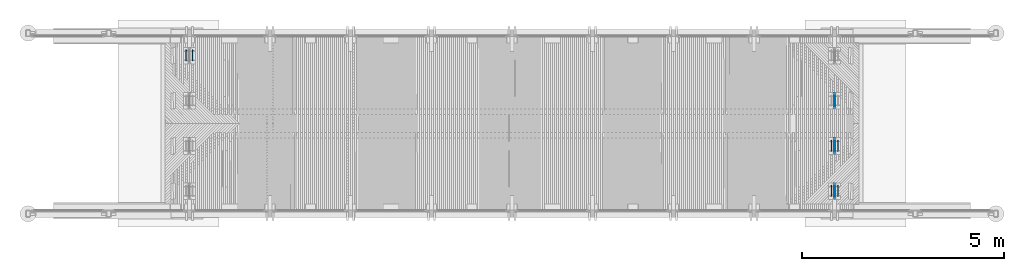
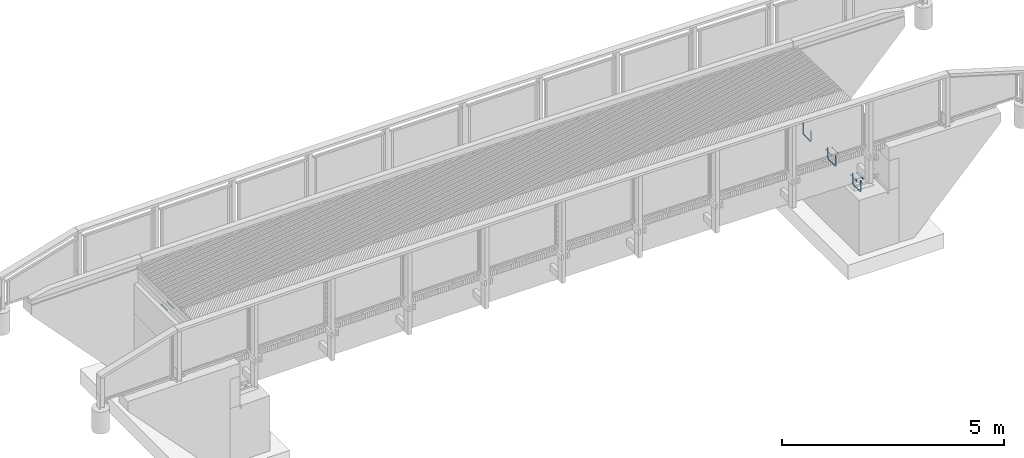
# One storey, part 3 of 65: 6 reinforcing bars, 3 mechanical fasteners.
"""IFC2X3 building model written with IfcOpenShell, lengths in millimetres."""

from ifc_helpers import new_model, si_unit, frame, origin_with_axes, place, context, subcontext, project, spatial, faceted_brep, source, transform, mapped, material, type_object, element, save


model = new_model("IFC2X3")

# Units and contexts
model_context = context("Model", 3, precision=1e-05, world=origin_with_axes())
body_context = subcontext(model_context, "Body", "Model", "MODEL_VIEW")
ifc_project = project(units=[si_unit("LENGTHUNIT", "METRE", prefix="MILLI"), si_unit("AREAUNIT", "SQUARE_METRE"), si_unit("VOLUMEUNIT", "CUBIC_METRE"), si_unit("MASSUNIT", "GRAM", prefix="KILO"), si_unit("TIMEUNIT", "SECOND"), si_unit("PLANEANGLEUNIT", "RADIAN"), si_unit("SOLIDANGLEUNIT", "STERADIAN"), si_unit("THERMODYNAMICTEMPERATUREUNIT", "DEGREE_CELSIUS"), si_unit("LUMINOUSINTENSITYUNIT", "LUMEN")], contexts=[model_context])

# Site, building, storey
site_placement = place(None, origin_with_axes())
site = spatial("IfcSite", under=ifc_project, at=site_placement, Name="Undefined", CompositionType="ELEMENT")
building_placement = place(site_placement, origin_with_axes())
building = spatial("IfcBuilding", under=site, at=building_placement, Name="Undefined", CompositionType="ELEMENT")
storey_placement = place(building_placement, origin_with_axes())
storey = spatial("IfcBuildingStorey", under=building, at=storey_placement, Name="Undefined", CompositionType="ELEMENT", Elevation=0.0)

# Reinforcing bars
ifc_material_1 = material(Name="A500HW")
shared_shape_1 = source(origin_with_axes(), body_context, "Body", "Brep", [
    faceted_brep([(9.95929214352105, -5.74999999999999, -1.31778448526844e-16), (9.95929214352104, 5.75000000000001, -1.31778448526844e-16), (-4.46864767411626e-15, 11.5, 5.31556664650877e-32), (-9.95929214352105, 5.75, 1.31778448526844e-16), (-9.95929214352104, -5.75, 1.31778448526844e-16), (0.0, -11.5, 0.0), (-9.95929214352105, -5.75, -268.5), (-3.5527136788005e-15, -11.5, -268.5), (-9.95929214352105, 5.75, -268.5), (-8.02136135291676e-15, 11.5, -268.5), (9.95929214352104, 5.75000000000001, -268.5), (9.95929214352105, -5.74999999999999, -268.5), (-4.40480021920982, -5.75, -289.229646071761), (4.22019978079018, -11.5, -284.25), (-4.40480021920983, 5.75, -289.229646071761), (4.22019978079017, 11.5, -284.25), (12.8451997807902, 5.75000000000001, -279.27035392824), (12.8451997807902, -5.74999999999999, -279.27035392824), (10.7703539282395, -5.75, -304.40480021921), (15.75, -11.5, -295.77980021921), (10.7703539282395, 5.75, -304.40480021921), (15.75, 11.5, -295.77980021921), (20.7296460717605, 5.75000000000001, -287.15480021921), (20.7296460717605, -5.74999999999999, -287.15480021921), (31.5, -5.75, -309.959292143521), (31.5, -11.5, -300.0), (31.5, 5.75, -309.959292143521), (31.5, 11.5, -300.0), (31.5, 5.75000000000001, -290.040707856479), (31.5, -5.74999999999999, -290.040707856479), (323.5, -5.75, -309.959292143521), (323.5, -11.5, -300.0), (323.5, 5.75, -309.959292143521), (323.5, 11.5, -300.0), (323.5, 5.75000000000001, -290.040707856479), (323.5, -5.74999999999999, -290.040707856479), (344.229646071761, -5.75, -304.40480021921), (339.25, -11.5, -295.77980021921), (344.229646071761, 5.75, -304.40480021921), (339.25, 11.5, -295.77980021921), (334.270353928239, 5.75000000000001, -287.15480021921), (334.270353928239, -5.74999999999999, -287.15480021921), (359.40480021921, -5.75, -289.229646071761), (350.77980021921, -11.5, -284.25), (359.40480021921, 5.75, -289.229646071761), (350.77980021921, 11.5, -284.25), (342.15480021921, 5.75000000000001, -279.27035392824), (342.15480021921, -5.74999999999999, -279.27035392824), (364.959292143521, -5.75, -268.5), (355.0, -11.5, -268.5), (364.959292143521, 5.75, -268.5), (355.0, 11.5, -268.5), (345.040707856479, 5.75000000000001, -268.5), (345.040707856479, -5.74999999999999, -268.5), (364.959292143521, -5.75, 0.0), (355.0, -11.5, 0.0), (364.959292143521, 5.75, 0.0), (355.0, 11.5, 0.0), (345.040707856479, 5.75000000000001, 0.0), (345.040707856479, -5.74999999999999, 0.0)], [[[0, 1, 2, 3, 4, 5]], [[5, 4, 6, 7]], [[4, 3, 8, 6]], [[3, 2, 9, 8]], [[2, 1, 10, 9]], [[1, 0, 11, 10]], [[0, 5, 7, 11]], [[7, 6, 12, 13]], [[6, 8, 14, 12]], [[8, 9, 15, 14]], [[9, 10, 16, 15]], [[10, 11, 17, 16]], [[11, 7, 13, 17]], [[13, 12, 18, 19]], [[12, 14, 20, 18]], [[14, 15, 21, 20]], [[15, 16, 22, 21]], [[16, 17, 23, 22]], [[17, 13, 19, 23]], [[19, 18, 24, 25]], [[18, 20, 26, 24]], [[20, 21, 27, 26]], [[21, 22, 28, 27]], [[22, 23, 29, 28]], [[23, 19, 25, 29]], [[25, 24, 30, 31]], [[24, 26, 32, 30]], [[26, 27, 33, 32]], [[27, 28, 34, 33]], [[28, 29, 35, 34]], [[29, 25, 31, 35]], [[31, 30, 36, 37]], [[30, 32, 38, 36]], [[32, 33, 39, 38]], [[33, 34, 40, 39]], [[34, 35, 41, 40]], [[35, 31, 37, 41]], [[37, 36, 42, 43]], [[36, 38, 44, 42]], [[38, 39, 45, 44]], [[39, 40, 46, 45]], [[40, 41, 47, 46]], [[41, 37, 43, 47]], [[43, 42, 48, 49]], [[42, 44, 50, 48]], [[44, 45, 51, 50]], [[45, 46, 52, 51]], [[46, 47, 53, 52]], [[47, 43, 49, 53]], [[49, 48, 54, 55]], [[48, 50, 56, 54]], [[50, 51, 57, 56]], [[51, 52, 58, 57]], [[52, 53, 59, 58]], [[53, 49, 55, 59]], [[55, 54, 56, 57, 58, 59]]]),
])
for number, where, z_axis, x_axis, name in (
    (1, (16000.0, 23102.5000000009, 1637.32999999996), (0.0, 0.0, 1.0), (0.0, -1.0, 0.0), "REBAR"),
    (2, (16000.0, 21627.5, 1637.32999999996), (0.0, 0.0, 1.0), (0.0, 1.0, 0.0), "REBAR"),
    (3, (16000.0, 20507.5, 1615.32999999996), (0.0, 0.0, 1.0), (0.0, 1.0, 0.0), "REBAR"),
    (4, (16000.0, 20507.5, 1615.32999999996), (0.0, 0.0, 1.0), (0.0, 1.0, 0.0), "REBAR"),
    (5, (16000.0, 21627.5, 1637.32999999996), (0.0, 0.0, 1.0), (0.0, 1.0, 0.0), "REBAR"),
    (6, (16000.0, 23102.5000000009, 1637.32999999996), (0.0, 0.0, 1.0), (0.0, -1.0, 0.0), "REBAR"),
):
    element("IfcReinforcingBar", number, at=place(storey_placement, frame(where, z_axis=z_axis, x_axis=x_axis)), inside=storey, material=ifc_material_1, Name=name, BarRole="NOTDEFINED", CrossSectionArea=0.0, NominalDiameter=23.0, context=body_context, shape_type="MappedRepresentation", body=[
        mapped(shared_shape_1, transform((0.0, 0.0, 420.0))),
    ])

# Mechanical fasteners
ifc_material_2 = material(Name="Undefined")
mechanical_fastener_type = type_object("IfcMechanicalFastenerType", Name="Bolt assembly")
shared_shape_2 = source(origin_with_axes(), body_context, "Body", "Brep", [
    faceted_brep([(17.3205080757, -238.7, 0.0), (8.66025403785, -238.7, 15.0000000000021), (-8.66025403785, -238.7, 15.0000000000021), (-17.3205080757, -238.7, 0.0), (-8.66025403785, -238.7, -15.0000000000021), (8.66025403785, -238.7, -15.0000000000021), (8.66025403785, -225.5, -15.0000000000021), (-8.66025403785, -225.5, -15.0000000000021), (-17.3205080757, -225.5, 0.0), (-8.66025403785, -225.5, 15.0000000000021), (8.66025403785, -225.5, 15.0000000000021), (17.3205080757, -225.5, 0.0), (10.0, -225.5, 0.0), (8.66025403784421, -225.5, 5.0000000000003), (4.9999999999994, -225.5, 8.66025403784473), (-1.03633598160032e-12, -225.5, 10.0), (-5.00000000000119, -225.5, 8.6602540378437), (-8.66025403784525, -225.5, 4.99999999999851), (-10.0, -225.5, -2.07267196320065e-12), (-8.66025403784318, -225.5, -5.00000000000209), (-4.99999999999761, -225.5, -8.66025403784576), (3.09790571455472e-12, -225.5, -10.0), (5.00000000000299, -225.5, -8.66025403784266), (8.66025403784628, -225.5, -4.99999999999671), (8.66025403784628, 44.5, -4.99999999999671), (5.00000000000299, 44.5, -8.66025403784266), (3.09790571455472e-12, 44.5, -10.0), (-4.99999999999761, 44.5, -8.66025403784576), (-8.66025403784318, 44.5, -5.00000000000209), (-10.0, 44.5, -2.07267196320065e-12), (-8.66025403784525, 44.5, 4.99999999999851), (-5.00000000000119, 44.5, 8.6602540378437), (-1.03633598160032e-12, 44.5, 10.0), (4.9999999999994, 44.5, 8.66025403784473), (8.66025403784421, 44.5, 5.0000000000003), (10.0, 44.5, 0.0), (18.5, -225.5, 0.0), (16.0214699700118, -225.5, 9.25000000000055), (9.2499999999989, -225.5, 16.0214699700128), (-1.9172215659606e-12, -225.5, 18.5), (-9.25000000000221, -225.5, 16.0214699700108), (-16.0214699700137, -225.5, 9.24999999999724), (-18.5, -225.5, -3.83444313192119e-12), (-16.0214699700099, -225.5, -9.25000000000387), (-9.24999999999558, -225.5, -16.0214699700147), (5.73112557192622e-12, -225.5, -18.5), (9.25000000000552, -225.5, -16.0214699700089), (16.0214699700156, -225.5, -9.24999999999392), (16.0214699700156, -222.5, -9.24999999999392), (9.25000000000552, -222.5, -16.0214699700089), (5.73112557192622e-12, -222.5, -18.5), (-9.24999999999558, -222.5, -16.0214699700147), (-16.0214699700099, -222.5, -9.25000000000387), (-18.5, -222.5, -3.83444313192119e-12), (-16.0214699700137, -222.5, 9.24999999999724), (-9.25000000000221, -222.5, 16.0214699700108), (-1.9172215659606e-12, -222.5, 18.5), (9.2499999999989, -222.5, 16.0214699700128), (16.0214699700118, -222.5, 9.25000000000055), (18.5, -222.5, 0.0), (18.5, 12.5, 0.0), (16.0214699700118, 12.5, 9.25000000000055), (9.2499999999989, 12.5, 16.0214699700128), (-1.9172215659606e-12, 12.5, 18.5), (-9.25000000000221, 12.5, 16.0214699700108), (-16.0214699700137, 12.5, 9.24999999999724), (-18.5, 12.5, -3.83444313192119e-12), (-16.0214699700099, 12.5, -9.25000000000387), (-9.24999999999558, 12.5, -16.0214699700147), (5.73112557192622e-12, 12.5, -18.5), (9.25000000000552, 12.5, -16.0214699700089), (16.0214699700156, 12.5, -9.24999999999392), (16.0214699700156, 15.5, -9.24999999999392), (9.25000000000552, 15.5, -16.0214699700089), (5.73112557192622e-12, 15.5, -18.5), (-9.24999999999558, 15.5, -16.0214699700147), (-16.0214699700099, 15.5, -9.25000000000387), (-18.5, 15.5, -3.83444313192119e-12), (-16.0214699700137, 15.5, 9.24999999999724), (-9.25000000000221, 15.5, 16.0214699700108), (-1.9172215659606e-12, 15.5, 18.5), (9.2499999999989, 15.5, 16.0214699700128), (16.0214699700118, 15.5, 9.25000000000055), (18.5, 15.5, 0.0), (17.3205080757, 15.5, 0.0), (8.66025403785, 15.5, 15.0000000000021), (-8.66025403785, 15.5, 15.0000000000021), (-17.3205080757, 15.5, 0.0), (-8.66025403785, 15.5, -15.0000000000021), (8.66025403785, 15.5, -15.0000000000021), (8.66025403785, 31.5, -15.0000000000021), (-8.66025403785, 31.5, -15.0000000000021), (-17.3205080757, 31.5, 0.0), (-8.66025403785, 31.5, 15.0000000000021), (8.66025403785, 31.5, 15.0000000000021), (17.3205080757, 31.5, 0.0)], [[[0, 1, 2, 3, 4, 5]], [[6, 7, 8, 9, 10, 11]], [[0, 11, 10, 1]], [[1, 10, 9, 2]], [[2, 9, 8, 3]], [[3, 8, 7, 4]], [[4, 7, 6, 5]], [[5, 6, 11, 0]], [[12, 13, 14, 15, 16, 17, 18, 19, 20, 21, 22, 23]], [[24, 25, 26, 27, 28, 29, 30, 31, 32, 33, 34, 35]], [[12, 35, 34, 13]], [[13, 34, 33, 14]], [[14, 33, 32, 15]], [[15, 32, 31, 16]], [[16, 31, 30, 17]], [[17, 30, 29, 18]], [[18, 29, 28, 19]], [[19, 28, 27, 20]], [[20, 27, 26, 21]], [[21, 26, 25, 22]], [[22, 25, 24, 23]], [[23, 24, 35, 12]], [[36, 37, 38, 39, 40, 41, 42, 43, 44, 45, 46, 47]], [[48, 49, 50, 51, 52, 53, 54, 55, 56, 57, 58, 59]], [[36, 59, 58, 37]], [[37, 58, 57, 38]], [[38, 57, 56, 39]], [[39, 56, 55, 40]], [[40, 55, 54, 41]], [[41, 54, 53, 42]], [[42, 53, 52, 43]], [[43, 52, 51, 44]], [[44, 51, 50, 45]], [[45, 50, 49, 46]], [[46, 49, 48, 47]], [[47, 48, 59, 36]], [[60, 61, 62, 63, 64, 65, 66, 67, 68, 69, 70, 71]], [[72, 73, 74, 75, 76, 77, 78, 79, 80, 81, 82, 83]], [[60, 83, 82, 61]], [[61, 82, 81, 62]], [[62, 81, 80, 63]], [[63, 80, 79, 64]], [[64, 79, 78, 65]], [[65, 78, 77, 66]], [[66, 77, 76, 67]], [[67, 76, 75, 68]], [[68, 75, 74, 69]], [[69, 74, 73, 70]], [[70, 73, 72, 71]], [[71, 72, 83, 60]], [[84, 85, 86, 87, 88, 89]], [[90, 91, 92, 93, 94, 95]], [[84, 95, 94, 85]], [[85, 94, 93, 86]], [[86, 93, 92, 87]], [[87, 92, 91, 88]], [[88, 91, 90, 89]], [[89, 90, 95, 84]]]),
    faceted_brep([(11.0, 2.4, 0.0), (9.52627944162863, 2.4, 5.50000000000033), (5.49999999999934, 2.4, 9.5262794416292), (-1.13996957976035e-12, 2.4, 11.0), (-5.50000000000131, 2.4, 9.52627944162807), (-9.52627944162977, 2.4, 5.49999999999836), (-11.0, 2.4, -2.27993915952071e-12), (-9.5262794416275, 2.4, -5.5000000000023), (-5.49999999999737, 2.4, -9.52627944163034), (3.40769628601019e-12, 2.4, -11.0), (5.50000000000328, 2.4, -9.52627944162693), (9.52627944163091, 2.4, -5.49999999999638), (9.52627944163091, 12.5, -5.49999999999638), (5.50000000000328, 12.5, -9.52627944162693), (3.40769628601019e-12, 12.5, -11.0), (-5.49999999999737, 12.5, -9.52627944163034), (-9.5262794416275, 12.5, -5.5000000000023), (-11.0, 12.5, -2.27993915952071e-12), (-9.52627944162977, 12.5, 5.49999999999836), (-5.50000000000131, 12.5, 9.52627944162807), (-1.13996957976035e-12, 12.5, 11.0), (5.49999999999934, 12.5, 9.5262794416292), (9.52627944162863, 12.5, 5.50000000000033), (11.0, 12.5, 0.0), (11.0, -212.500000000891, 0.0), (9.52627944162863, -212.500000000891, 5.50000000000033), (5.49999999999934, -212.500000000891, 9.5262794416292), (-1.13996957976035e-12, -212.500000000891, 11.0), (-5.50000000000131, -212.500000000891, 9.52627944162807), (-9.52627944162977, -212.500000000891, 5.49999999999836), (-11.0, -212.500000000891, -2.27993915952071e-12), (-9.5262794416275, -212.500000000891, -5.5000000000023), (-5.49999999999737, -212.500000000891, -9.52627944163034), (3.40769628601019e-12, -212.500000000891, -11.0), (5.50000000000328, -212.500000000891, -9.52627944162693), (9.52627944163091, -212.500000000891, -5.49999999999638), (9.52627944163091, 2.4999999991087, -5.49999999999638), (5.50000000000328, 2.4999999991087, -9.52627944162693), (3.40769628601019e-12, 2.4999999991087, -11.0), (-5.49999999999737, 2.4999999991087, -9.52627944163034), (-9.5262794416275, 2.4999999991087, -5.5000000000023), (-11.0, 2.4999999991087, -2.27993915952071e-12), (-9.52627944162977, 2.4999999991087, 5.49999999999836), (-5.50000000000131, 2.4999999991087, 9.52627944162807), (-1.13996957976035e-12, 2.4999999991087, 11.0), (5.49999999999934, 2.4999999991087, 9.5262794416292), (9.52627944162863, 2.4999999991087, 5.50000000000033), (11.0, 2.4999999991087, 0.0), (11.0, -222.4, 0.0), (9.52627944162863, -222.4, 5.50000000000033), (5.49999999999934, -222.4, 9.5262794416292), (-1.13996957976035e-12, -222.4, 11.0), (-5.50000000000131, -222.4, 9.52627944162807), (-9.52627944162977, -222.4, 5.49999999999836), (-11.0, -222.4, -2.27993915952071e-12), (-9.5262794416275, -222.4, -5.5000000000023), (-5.49999999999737, -222.4, -9.52627944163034), (3.40769628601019e-12, -222.4, -11.0), (5.50000000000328, -222.4, -9.52627944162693), (9.52627944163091, -222.4, -5.49999999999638), (9.52627944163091, -212.4, -5.49999999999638), (5.50000000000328, -212.4, -9.52627944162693), (3.40769628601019e-12, -212.4, -11.0), (-5.49999999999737, -212.4, -9.52627944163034), (-9.5262794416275, -212.4, -5.5000000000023), (-11.0, -212.4, -2.27993915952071e-12), (-9.52627944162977, -212.4, 5.49999999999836), (-5.50000000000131, -212.4, 9.52627944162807), (-1.13996957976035e-12, -212.4, 11.0), (5.49999999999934, -212.4, 9.5262794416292), (9.52627944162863, -212.4, 5.50000000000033), (11.0, -212.4, 0.0)], [[[0, 1, 2, 3, 4, 5, 6, 7, 8, 9, 10, 11]], [[12, 13, 14, 15, 16, 17, 18, 19, 20, 21, 22, 23]], [[0, 23, 22, 1]], [[1, 22, 21, 2]], [[2, 21, 20, 3]], [[3, 20, 19, 4]], [[4, 19, 18, 5]], [[5, 18, 17, 6]], [[6, 17, 16, 7]], [[7, 16, 15, 8]], [[8, 15, 14, 9]], [[9, 14, 13, 10]], [[10, 13, 12, 11]], [[11, 12, 23, 0]], [[24, 25, 26, 27, 28, 29, 30, 31, 32, 33, 34, 35]], [[36, 37, 38, 39, 40, 41, 42, 43, 44, 45, 46, 47]], [[24, 47, 46, 25]], [[25, 46, 45, 26]], [[26, 45, 44, 27]], [[27, 44, 43, 28]], [[28, 43, 42, 29]], [[29, 42, 41, 30]], [[30, 41, 40, 31]], [[31, 40, 39, 32]], [[32, 39, 38, 33]], [[33, 38, 37, 34]], [[34, 37, 36, 35]], [[35, 36, 47, 24]], [[48, 49, 50, 51, 52, 53, 54, 55, 56, 57, 58, 59]], [[60, 61, 62, 63, 64, 65, 66, 67, 68, 69, 70, 71]], [[48, 71, 70, 49]], [[49, 70, 69, 50]], [[50, 69, 68, 51]], [[51, 68, 67, 52]], [[52, 67, 66, 53]], [[53, 66, 65, 54]], [[54, 65, 64, 55]], [[55, 64, 63, 56]], [[56, 63, 62, 57]], [[57, 62, 61, 58]], [[58, 61, 60, 59]], [[59, 60, 71, 48]]]),
])
mechanical_fastener_placement = place(storey_placement, frame((-80.0, 24150.0000000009, 2045.33), z_axis=(0.0, 0.0, 1.0), x_axis=(1.0, 0.0, 0.0)))
element("IfcMechanicalFastener", 7, at=mechanical_fastener_placement, inside=storey, type_object=mechanical_fastener_type, material=ifc_material_2, Name="Bolt assembly", NominalDiameter=20.0, NominalLength=270.0, context=body_context, shape_type="MappedRepresentation", body=[
    mapped(shared_shape_2, transform((0.0, 0.0, 0.0))),
    mapped(shared_shape_2, transform((160.0, 0.0, 0.0))),
])
shared_shape_3 = source(origin_with_axes(), body_context, "Body", "Brep", [
    faceted_brep([(17.3205080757, -28.7, 0.0), (8.66025403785, -28.7, 15.0000000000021), (-8.66025403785, -28.7, 15.0000000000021), (-17.3205080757, -28.7, 0.0), (-8.66025403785, -28.7, -15.0000000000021), (8.66025403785, -28.7, -15.0000000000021), (8.66025403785, -15.5, -15.0000000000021), (-8.66025403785, -15.5, -15.0000000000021), (-17.3205080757, -15.5, 0.0), (-8.66025403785, -15.5, 15.0000000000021), (8.66025403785, -15.5, 15.0000000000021), (17.3205080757, -15.5, 0.0), (10.0, -15.5, 0.0), (8.66025403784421, -15.5, 5.0000000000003), (4.9999999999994, -15.5, 8.66025403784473), (-1.03633598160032e-12, -15.5, 10.0), (-5.00000000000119, -15.5, 8.6602540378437), (-8.66025403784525, -15.5, 4.99999999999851), (-10.0, -15.5, -2.07267196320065e-12), (-8.66025403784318, -15.5, -5.00000000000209), (-4.99999999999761, -15.5, -8.66025403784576), (3.09790571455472e-12, -15.5, -10.0), (5.00000000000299, -15.5, -8.66025403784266), (8.66025403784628, -15.5, -4.99999999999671), (8.66025403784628, 254.5, -4.99999999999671), (5.00000000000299, 254.5, -8.66025403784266), (3.09790571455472e-12, 254.5, -10.0), (-4.99999999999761, 254.5, -8.66025403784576), (-8.66025403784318, 254.5, -5.00000000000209), (-10.0, 254.5, -2.07267196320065e-12), (-8.66025403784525, 254.5, 4.99999999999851), (-5.00000000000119, 254.5, 8.6602540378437), (-1.03633598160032e-12, 254.5, 10.0), (4.9999999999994, 254.5, 8.66025403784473), (8.66025403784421, 254.5, 5.0000000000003), (10.0, 254.5, 0.0), (18.5, -15.5, 0.0), (16.0214699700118, -15.5, 9.25000000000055), (9.2499999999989, -15.5, 16.0214699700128), (-1.9172215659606e-12, -15.5, 18.5), (-9.25000000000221, -15.5, 16.0214699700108), (-16.0214699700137, -15.5, 9.24999999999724), (-18.5, -15.5, -3.83444313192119e-12), (-16.0214699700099, -15.5, -9.25000000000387), (-9.24999999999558, -15.5, -16.0214699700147), (5.73112557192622e-12, -15.5, -18.5), (9.25000000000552, -15.5, -16.0214699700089), (16.0214699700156, -15.5, -9.24999999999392), (16.0214699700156, -12.5, -9.24999999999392), (9.25000000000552, -12.5, -16.0214699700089), (5.73112557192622e-12, -12.5, -18.5), (-9.24999999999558, -12.5, -16.0214699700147), (-16.0214699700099, -12.5, -9.25000000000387), (-18.5, -12.5, -3.83444313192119e-12), (-16.0214699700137, -12.5, 9.24999999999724), (-9.25000000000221, -12.5, 16.0214699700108), (-1.9172215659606e-12, -12.5, 18.5), (9.2499999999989, -12.5, 16.0214699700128), (16.0214699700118, -12.5, 9.25000000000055), (18.5, -12.5, 0.0), (18.5, 222.5, 0.0), (16.0214699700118, 222.5, 9.25000000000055), (9.2499999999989, 222.5, 16.0214699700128), (-1.9172215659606e-12, 222.5, 18.5), (-9.25000000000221, 222.5, 16.0214699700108), (-16.0214699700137, 222.5, 9.24999999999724), (-18.5, 222.5, -3.83444313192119e-12), (-16.0214699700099, 222.5, -9.25000000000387), (-9.24999999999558, 222.5, -16.0214699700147), (5.73112557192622e-12, 222.5, -18.5), (9.25000000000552, 222.5, -16.0214699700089), (16.0214699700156, 222.5, -9.24999999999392), (16.0214699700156, 225.5, -9.24999999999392), (9.25000000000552, 225.5, -16.0214699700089), (5.73112557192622e-12, 225.5, -18.5), (-9.24999999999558, 225.5, -16.0214699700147), (-16.0214699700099, 225.5, -9.25000000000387), (-18.5, 225.5, -3.83444313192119e-12), (-16.0214699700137, 225.5, 9.24999999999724), (-9.25000000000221, 225.5, 16.0214699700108), (-1.9172215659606e-12, 225.5, 18.5), (9.2499999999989, 225.5, 16.0214699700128), (16.0214699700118, 225.5, 9.25000000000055), (18.5, 225.5, 0.0), (17.3205080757, 225.5, 0.0), (8.66025403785, 225.5, 15.0000000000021), (-8.66025403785, 225.5, 15.0000000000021), (-17.3205080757, 225.5, 0.0), (-8.66025403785, 225.5, -15.0000000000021), (8.66025403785, 225.5, -15.0000000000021), (8.66025403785, 241.5, -15.0000000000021), (-8.66025403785, 241.5, -15.0000000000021), (-17.3205080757, 241.5, 0.0), (-8.66025403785, 241.5, 15.0000000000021), (8.66025403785, 241.5, 15.0000000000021), (17.3205080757, 241.5, 0.0)], [[[0, 1, 2, 3, 4, 5]], [[6, 7, 8, 9, 10, 11]], [[0, 11, 10, 1]], [[1, 10, 9, 2]], [[2, 9, 8, 3]], [[3, 8, 7, 4]], [[4, 7, 6, 5]], [[5, 6, 11, 0]], [[12, 13, 14, 15, 16, 17, 18, 19, 20, 21, 22, 23]], [[24, 25, 26, 27, 28, 29, 30, 31, 32, 33, 34, 35]], [[12, 35, 34, 13]], [[13, 34, 33, 14]], [[14, 33, 32, 15]], [[15, 32, 31, 16]], [[16, 31, 30, 17]], [[17, 30, 29, 18]], [[18, 29, 28, 19]], [[19, 28, 27, 20]], [[20, 27, 26, 21]], [[21, 26, 25, 22]], [[22, 25, 24, 23]], [[23, 24, 35, 12]], [[36, 37, 38, 39, 40, 41, 42, 43, 44, 45, 46, 47]], [[48, 49, 50, 51, 52, 53, 54, 55, 56, 57, 58, 59]], [[36, 59, 58, 37]], [[37, 58, 57, 38]], [[38, 57, 56, 39]], [[39, 56, 55, 40]], [[40, 55, 54, 41]], [[41, 54, 53, 42]], [[42, 53, 52, 43]], [[43, 52, 51, 44]], [[44, 51, 50, 45]], [[45, 50, 49, 46]], [[46, 49, 48, 47]], [[47, 48, 59, 36]], [[60, 61, 62, 63, 64, 65, 66, 67, 68, 69, 70, 71]], [[72, 73, 74, 75, 76, 77, 78, 79, 80, 81, 82, 83]], [[60, 83, 82, 61]], [[61, 82, 81, 62]], [[62, 81, 80, 63]], [[63, 80, 79, 64]], [[64, 79, 78, 65]], [[65, 78, 77, 66]], [[66, 77, 76, 67]], [[67, 76, 75, 68]], [[68, 75, 74, 69]], [[69, 74, 73, 70]], [[70, 73, 72, 71]], [[71, 72, 83, 60]], [[84, 85, 86, 87, 88, 89]], [[90, 91, 92, 93, 94, 95]], [[84, 95, 94, 85]], [[85, 94, 93, 86]], [[86, 93, 92, 87]], [[87, 92, 91, 88]], [[88, 91, 90, 89]], [[89, 90, 95, 84]]]),
    faceted_brep([(11.0, -12.4, 0.0), (9.52627944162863, -12.4, 5.50000000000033), (5.49999999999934, -12.4, 9.5262794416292), (-1.13996957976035e-12, -12.4, 11.0), (-5.50000000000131, -12.4, 9.52627944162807), (-9.52627944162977, -12.4, 5.49999999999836), (-11.0, -12.4, -2.27993915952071e-12), (-9.5262794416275, -12.4, -5.5000000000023), (-5.49999999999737, -12.4, -9.52627944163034), (3.40769628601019e-12, -12.4, -11.0), (5.50000000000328, -12.4, -9.52627944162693), (9.52627944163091, -12.4, -5.49999999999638), (9.52627944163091, -2.4, -5.49999999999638), (5.50000000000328, -2.4, -9.52627944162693), (3.40769628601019e-12, -2.4, -11.0), (-5.49999999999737, -2.4, -9.52627944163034), (-9.5262794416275, -2.4, -5.5000000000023), (-11.0, -2.4, -2.27993915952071e-12), (-9.52627944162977, -2.4, 5.49999999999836), (-5.50000000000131, -2.4, 9.52627944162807), (-1.13996957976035e-12, -2.4, 11.0), (5.49999999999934, -2.4, 9.5262794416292), (9.52627944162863, -2.4, 5.50000000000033), (11.0, -2.4, 0.0), (11.0, 212.4, 0.0), (9.52627944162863, 212.4, 5.50000000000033), (5.49999999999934, 212.4, 9.5262794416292), (-1.13996957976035e-12, 212.4, 11.0), (-5.50000000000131, 212.4, 9.52627944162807), (-9.52627944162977, 212.4, 5.49999999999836), (-11.0, 212.4, -2.27993915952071e-12), (-9.5262794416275, 212.4, -5.5000000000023), (-5.49999999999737, 212.4, -9.52627944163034), (3.40769628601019e-12, 212.4, -11.0), (5.50000000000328, 212.4, -9.52627944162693), (9.52627944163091, 212.4, -5.49999999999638), (9.52627944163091, 222.5, -5.49999999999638), (5.50000000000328, 222.5, -9.52627944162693), (3.40769628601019e-12, 222.5, -11.0), (-5.49999999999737, 222.5, -9.52627944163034), (-9.5262794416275, 222.5, -5.5000000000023), (-11.0, 222.5, -2.27993915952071e-12), (-9.52627944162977, 222.5, 5.49999999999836), (-5.50000000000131, 222.5, 9.52627944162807), (-1.13996957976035e-12, 222.5, 11.0), (5.49999999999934, 222.5, 9.5262794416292), (9.52627944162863, 222.5, 5.50000000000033), (11.0, 222.5, 0.0)], [[[0, 1, 2, 3, 4, 5, 6, 7, 8, 9, 10, 11]], [[12, 13, 14, 15, 16, 17, 18, 19, 20, 21, 22, 23]], [[0, 23, 22, 1]], [[1, 22, 21, 2]], [[2, 21, 20, 3]], [[3, 20, 19, 4]], [[4, 19, 18, 5]], [[5, 18, 17, 6]], [[6, 17, 16, 7]], [[7, 16, 15, 8]], [[8, 15, 14, 9]], [[9, 14, 13, 10]], [[10, 13, 12, 11]], [[11, 12, 23, 0]], [[24, 25, 26, 27, 28, 29, 30, 31, 32, 33, 34, 35]], [[36, 37, 38, 39, 40, 41, 42, 43, 44, 45, 46, 47]], [[24, 47, 46, 25]], [[25, 46, 45, 26]], [[26, 45, 44, 27]], [[27, 44, 43, 28]], [[28, 43, 42, 29]], [[29, 42, 41, 30]], [[30, 41, 40, 31]], [[31, 40, 39, 32]], [[32, 39, 38, 33]], [[33, 38, 37, 34]], [[34, 37, 36, 35]], [[35, 36, 47, 24]]]),
])
for number, where, z_axis, x_axis, name in (
    (8, (16080.0, 21700.0, 2067.33), (0.0, 0.0, -1.0), (-1.0, 0.0, 0.0), "Bolt assembly"),
    (9, (16080.0, 20580.0, 2045.33), (0.0, 0.0, -1.0), (-1.0, 0.0, 0.0), "Bolt assembly"),
):
    element("IfcMechanicalFastener", number, at=place(storey_placement, frame(where, z_axis=z_axis, x_axis=x_axis)), inside=storey, type_object=mechanical_fastener_type, material=ifc_material_2, Name=name, NominalDiameter=20.0, NominalLength=270.0, context=body_context, shape_type="MappedRepresentation", body=[
        mapped(shared_shape_3, transform((0.0, 0.0, 0.0))),
        mapped(shared_shape_3, transform((160.0, 0.0, 0.0))),
    ])

save(model, "model.ifc")
